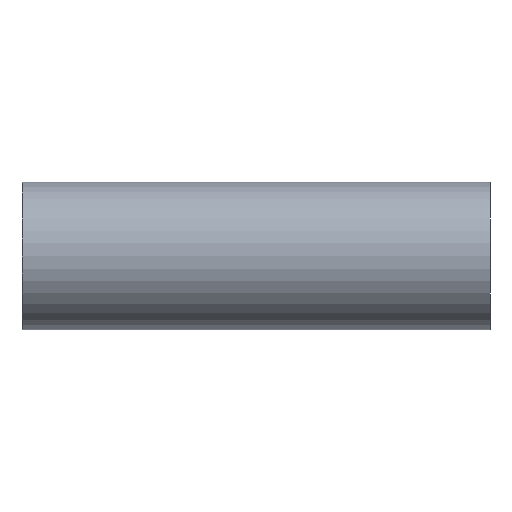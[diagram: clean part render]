
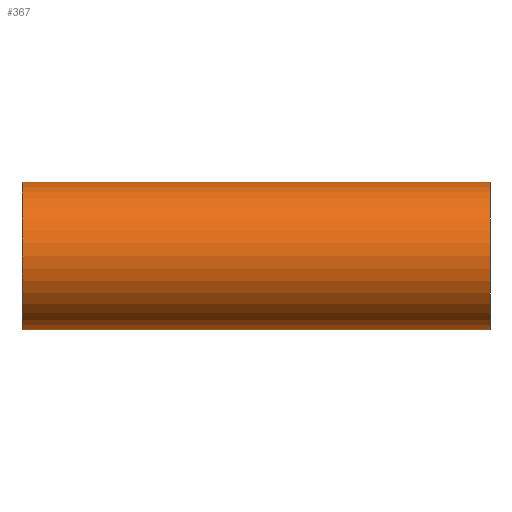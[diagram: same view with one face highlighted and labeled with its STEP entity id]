
A CAD part, front view. The second image highlights one B-rep face of the part: STEP entity #367.
In plain terms, the highlighted cylindrical face has radius 19.05 mm (diameter 38.1 mm), a partial arc.
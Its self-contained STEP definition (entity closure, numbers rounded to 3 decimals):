
#17 = AXIS2_PLACEMENT_3D ( 'NONE', #233, #202, #198 ) ;
#24 = DIRECTION ( 'NONE',  ( 1., 0., 0. ) ) ;
#27 = AXIS2_PLACEMENT_3D ( 'NONE', #28, #24, #159 ) ;
#28 = CARTESIAN_POINT ( 'NONE',  ( -60.3, 0., 0. ) ) ;
#35 = CARTESIAN_POINT ( 'NONE',  ( -60.3, 0., 19.05 ) ) ;
#54 = VECTOR ( 'NONE', #356, 1000. ) ;
#56 = EDGE_CURVE ( 'NONE', #435, #400, #211, .T. ) ;
#73 = EDGE_CURVE ( 'NONE', #83, #400, #450, .T. ) ;
#83 = VERTEX_POINT ( 'NONE', #35 ) ;
#114 = CARTESIAN_POINT ( 'NONE',  ( 60.3, 0., 19.05 ) ) ;
#137 = ORIENTED_EDGE ( 'NONE', *, *, #341, .T. ) ;
#142 = DIRECTION ( 'NONE',  ( 1., 0., 0. ) ) ;
#159 = DIRECTION ( 'NONE',  ( 0., 0., -1. ) ) ;
#166 = VECTOR ( 'NONE', #142, 1000. ) ;
#178 = CARTESIAN_POINT ( 'NONE',  ( 60.3, 0., 0. ) ) ;
#190 = VERTEX_POINT ( 'NONE', #250 ) ;
#198 = DIRECTION ( 'NONE',  ( 0., 0., -1. ) ) ;
#202 = DIRECTION ( 'NONE',  ( 1., 0., 0. ) ) ;
#211 = CIRCLE ( 'NONE', #481, 19.05 ) ;
#216 = CARTESIAN_POINT ( 'NONE',  ( -60.3, 0., -19.05 ) ) ;
#218 = DIRECTION ( 'NONE',  ( -1., 0., 0. ) ) ;
#233 = CARTESIAN_POINT ( 'NONE',  ( -60.3, 0., 0. ) ) ;
#250 = CARTESIAN_POINT ( 'NONE',  ( -60.3, 0., -19.05 ) ) ;
#266 = CIRCLE ( 'NONE', #17, 19.05 ) ;
#272 = FACE_OUTER_BOUND ( 'NONE', #403, .T. ) ;
#278 = LINE ( 'NONE', #216, #54 ) ;
#313 = ORIENTED_EDGE ( 'NONE', *, *, #344, .T. ) ;
#341 = EDGE_CURVE ( 'NONE', #83, #190, #266, .T. ) ;
#344 = EDGE_CURVE ( 'NONE', #190, #435, #278, .T. ) ;
#356 = DIRECTION ( 'NONE',  ( 1., 0., 0. ) ) ;
#358 = DIRECTION ( 'NONE',  ( 0., 0., -1. ) ) ;
#367 = ADVANCED_FACE ( 'NONE', ( #272 ), #380, .T. ) ;
#373 = ORIENTED_EDGE ( 'NONE', *, *, #56, .T. ) ;
#380 = CYLINDRICAL_SURFACE ( 'NONE', #27, 19.05 ) ;
#400 = VERTEX_POINT ( 'NONE', #114 ) ;
#403 = EDGE_LOOP ( 'NONE', ( #410, #137, #313, #373 ) ) ;
#410 = ORIENTED_EDGE ( 'NONE', *, *, #73, .F. ) ;
#419 = CARTESIAN_POINT ( 'NONE',  ( 60.3, 0., -19.05 ) ) ;
#435 = VERTEX_POINT ( 'NONE', #419 ) ;
#450 = LINE ( 'NONE', #502, #166 ) ;
#481 = AXIS2_PLACEMENT_3D ( 'NONE', #178, #218, #358 ) ;
#502 = CARTESIAN_POINT ( 'NONE',  ( -60.3, 0., 19.05 ) ) ;
